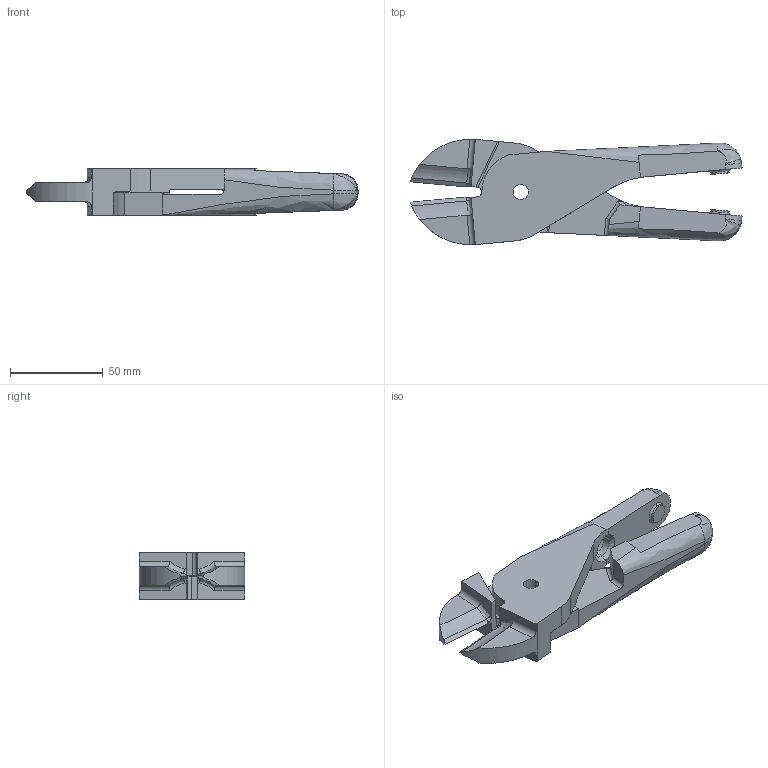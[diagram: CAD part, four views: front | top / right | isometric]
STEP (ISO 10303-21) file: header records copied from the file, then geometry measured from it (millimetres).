
FILE_DESCRIPTION (( 'STEP AP214' ), '1' );
FILE_NAME ('N50AS.STEP', '2019-11-29T03:00:32', ( '微软用户' ), ( '微软中国' ), 'SwSTEP 2.0', 'SolidWorks 2016', '' );
FILE_SCHEMA (( 'AUTOMOTIVE_DESIGN' ));
Length unit declared in the file: millimetre
Products named in the file (2): FAI-0001-001-B; N50AS
Assembly tree (2 placements, depth 2):
  N50AS
    FAI-0001-001-B  x2
Bounding box: 179.06 x 56.87 x 25 mm (x, y, z)
Volume: 120552.9 mm3; surface area: 31365.6 mm2
Topology: 2 solids, 2 shells, 144 faces, 390 edges, 242 vertices
Faces by surface type: plane 60, cylinder 52, bspline 20, cone 8, torus 4
Entity records: 2936 total; most frequent: CARTESIAN_POINT 1222, ORIENTED_EDGE 380, DIRECTION 304, EDGE_CURVE 190, VERTEX_POINT 121, AXIS2_PLACEMENT_3D 104, LINE 96, VECTOR 96
